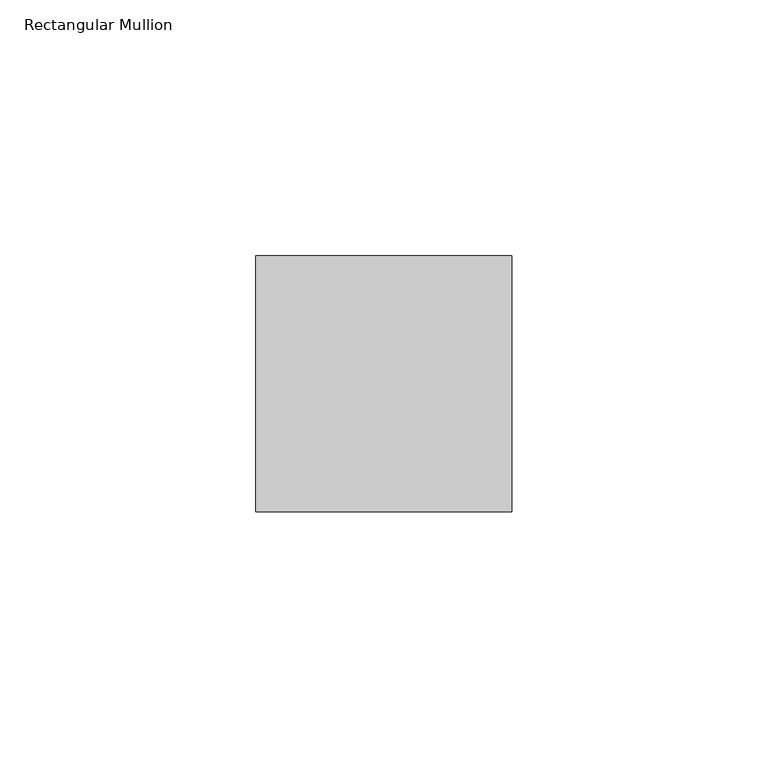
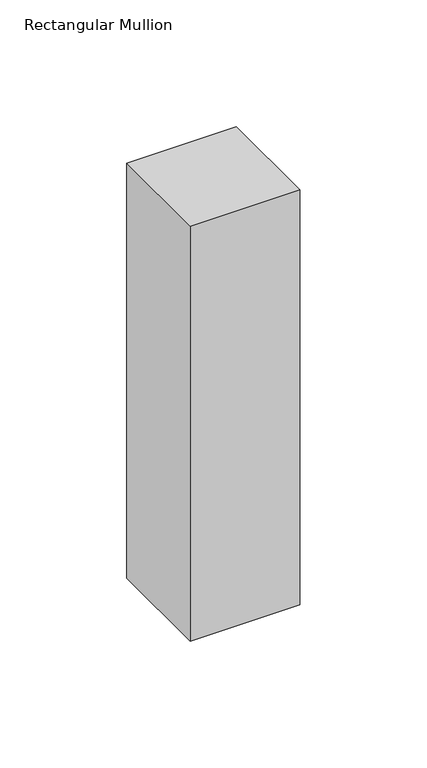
"""IFC4 building model written with IfcOpenShell, lengths in millimetres: member geometry, Rectangular Mullion : RSen_21_CWM_support profile 50x50 - left_gen_duco projects."""

import ifcopenshell
import ifcopenshell.guid

model = None  # the IFC model being written
_history = None  # IfcOwnerHistory: only IFC2X3 demands one
_inside = {}  # id of a spatial element -> (the spatial element, [elements in it])
_under = {}  # id of a project, library or spatial element -> (it, [spatial elements below it])
_declared = {}  # id of a project -> (the project, [libraries it declares])
_typed = {}  # id of a type object -> (the type object, [elements of that type])
_made_of = {}  # id of a material, layer set ... -> (it, [elements and type objects made of it])


def new_model(schema):
    """Start an empty IFC model of exactly this schema.

    Asked for "IFC4X3", IfcOpenShell would pick the latest addendum, in which some entities
    have other attributes; the version numbers below select the first issue.
    IFC2X3 requires an IfcOwnerHistory on every rooted entity: one is made here for all.
    """
    global model, _history
    if schema == "IFC4X3":
        model = ifcopenshell.file(schema_version=(4, 3, 0, 0))
    else:
        model = ifcopenshell.file(schema=schema)
    _inside.clear()
    _under.clear()
    _declared.clear()
    _typed.clear()
    _made_of.clear()
    _history = None
    if model.schema == "IFC2X3":
        org = make("IfcOrganization", Name="unknown")
        user = make(
            "IfcPersonAndOrganization",
            ThePerson=make("IfcPerson", FamilyName="unknown"),
            TheOrganization=org,
        )
        app = make(
            "IfcApplication",
            ApplicationDeveloper=org,
            Version="unknown",
            ApplicationFullName="unknown",
            ApplicationIdentifier="unknown",
        )
        _history = make(
            "IfcOwnerHistory",
            OwningUser=user,
            OwningApplication=app,
            ChangeAction="ADDED",
            CreationDate=0,
        )
    return model


def make(cls, **values):
    """One entity of the class cls with the attributes given. An attribute that is None is left unset."""
    return model.create_entity(
        cls, **{name: value for name, value in values.items() if value is not None}
    )


def rooted(cls, **values):
    """An entity with a GlobalId (a new one), such as an element, a storey or a relation."""
    return make(cls, GlobalId=ifcopenshell.guid.new(), OwnerHistory=_history, **values)


def si_unit(unit_type, name, prefix=None):
    """IfcSIUnit, for example si_unit("LENGTHUNIT", "METRE", prefix="MILLI")."""
    return make("IfcSIUnit", UnitType=unit_type, Prefix=prefix, Name=name)


def assignment(units):
    """IfcUnitAssignment: the units of a project."""
    return None if units is None else make("IfcUnitAssignment", Units=units)


def point(xyz):
    """IfcCartesianPoint."""
    return None if xyz is None else make("IfcCartesianPoint", Coordinates=xyz)


def direction(xyz):
    """IfcDirection."""
    return None if xyz is None else make("IfcDirection", DirectionRatios=xyz)


def frame(location, z_axis=None, x_axis=None):
    """IfcAxis2Placement3D, a coordinate frame: its origin and axes. An axis left out is left unset."""
    return make(
        "IfcAxis2Placement3D",
        Location=point(location),
        Axis=direction(z_axis),
        RefDirection=direction(x_axis),
    )


def origin():
    """The frame at (0, 0, 0) with its axes left unset."""
    return frame((0.0, 0.0, 0.0))


def place(relative_to, where):
    """IfcLocalPlacement: puts the frame where relative to a parent placement (None: the world)."""
    return make(
        "IfcLocalPlacement", PlacementRelTo=relative_to, RelativePlacement=where
    )


def context(
    kind, dimensions, precision=None, world=None, true_north=None, identifier=None
):
    """IfcGeometricRepresentationContext, for example the 3D "Model" context."""
    return make(
        "IfcGeometricRepresentationContext",
        ContextIdentifier=identifier,
        ContextType=kind,
        CoordinateSpaceDimension=dimensions,
        Precision=precision,
        WorldCoordinateSystem=world,
        TrueNorth=true_north,
    )


def project(units=None, contexts=None):
    """IfcProject with its units and contexts."""
    return rooted(
        "IfcProject",
        Name="project",
        RepresentationContexts=contexts,
        UnitsInContext=assignment(units),
    )


def spatial(cls, under=None, at=None, **own):
    """A site, building, storey or space (cls), placed at a placement, below another one or the project."""
    s = rooted(cls, ObjectPlacement=at, **own)
    if under is not None:
        _under.setdefault(under.id(), (under, []))[1].append(s)
    return s


def polyline(points):
    """IfcPolyline through the points."""
    return make("IfcPolyline", Points=[point(p) for p in points])


def outline(outer, holes=None, kind="AREA"):
    """IfcArbitraryClosedProfileDef: a profile drawn as a closed curve; with holes, ...WithVoids."""
    if holes is None:
        return make("IfcArbitraryClosedProfileDef", ProfileType=kind, OuterCurve=outer)
    return make(
        "IfcArbitraryProfileDefWithVoids",
        ProfileType=kind,
        OuterCurve=outer,
        InnerCurves=holes,
    )


def extrude(swept, where, along, depth):
    """IfcExtrudedAreaSolid: the profile swept, set in the frame where, extruded along a direction by depth."""
    return make(
        "IfcExtrudedAreaSolid",
        SweptArea=swept,
        Position=where,
        ExtrudedDirection=direction(along),
        Depth=depth,
    )


def shape(context_of_items, identifier, shape_type, items):
    """IfcShapeRepresentation: the items that make up one representation, for example the "Body"."""
    return make(
        "IfcShapeRepresentation",
        ContextOfItems=context_of_items,
        RepresentationIdentifier=identifier,
        RepresentationType=shape_type,
        Items=items,
    )


def source(mapping_origin, context_of_items, identifier, shape_type, items):
    """IfcRepresentationMap: a shape defined once, which mapped items show again and again."""
    return make(
        "IfcRepresentationMap",
        MappingOrigin=mapping_origin,
        MappedRepresentation=shape(context_of_items, identifier, shape_type, items),
    )


def transform(
    local_origin,
    x_axis=None,
    y_axis=None,
    z_axis=None,
    scale=None,
    scale2=None,
    scale3=None,
    uniform=True,
):
    """IfcCartesianTransformationOperator3D, or its non-uniform kind. x_axis, y_axis, z_axis: its Axis1, 2, 3."""
    if uniform:
        return make(
            "IfcCartesianTransformationOperator3D",
            Axis1=direction(x_axis),
            Axis2=direction(y_axis),
            LocalOrigin=point(local_origin),
            Scale=scale,
            Axis3=direction(z_axis),
        )
    return make(
        "IfcCartesianTransformationOperator3DnonUniform",
        Axis1=direction(x_axis),
        Axis2=direction(y_axis),
        LocalOrigin=point(local_origin),
        Scale=scale,
        Axis3=direction(z_axis),
        Scale2=scale2,
        Scale3=scale3,
    )


def mapped(mapping_source, mapping_target):
    """IfcMappedItem: shows the shape of a source again, moved by a transform."""
    return make(
        "IfcMappedItem", MappingSource=mapping_source, MappingTarget=mapping_target
    )


def made_of(thing, what):
    """Note that an element or type object is made of a material, layer set ...; save() writes the relation."""
    if what is not None:
        _made_of.setdefault(what.id(), (what, []))[1].append(thing)
    return thing


def element(
    cls,
    number,
    at=None,
    inside=None,
    cuts=None,
    type_object=None,
    material=None,
    context=None,
    identifier="Body",
    shape_type=None,
    held_by="IfcProductDefinitionShape",
    body=None,
    shapes=None,
    **own,
):
    """One element of the class cls, such as IfcWall. Its Tag is "e" and its number.

    at: its placement. inside: the storey or other place that contains it. cuts: it is an
    opening in that element (IfcRelVoidsElement). A single representation is given by context,
    identifier, shape_type and body (its items); several are given by shapes. held_by: the class
    of the entity that holds the representations. save() writes the other relations.
    """
    e = rooted(cls, Tag="e%d" % number, ObjectPlacement=at, **own)
    if body is not None:
        shapes = [shape(context, identifier, shape_type, body)]
    if shapes is not None:
        e.Representation = make(held_by, Representations=shapes)
    if inside is not None:
        _inside.setdefault(inside.id(), (inside, []))[1].append(e)
    if cuts is not None:
        rooted(
            "IfcRelVoidsElement", RelatingBuildingElement=cuts, RelatedOpeningElement=e
        )
    if type_object is not None:
        _typed.setdefault(type_object.id(), (type_object, []))[1].append(e)
    return made_of(e, material)


def aggregate(whole, parts):
    """IfcRelAggregates: a whole, such as a stair, and the parts it consists of."""
    return rooted("IfcRelAggregates", RelatingObject=whole, RelatedObjects=parts)


def save(model, path):
    """Write the relations noted so far, then the file.

    IfcRelAggregates (storeys below a building ...), IfcRelContainedInSpatialStructure (elements
    in a storey), IfcRelDefinesByType, IfcRelAssociatesMaterial and IfcRelDeclares: one each for
    every whole, place, type object, material and project.
    """
    for whole, parts in _under.values():
        aggregate(whole, parts)
    for where, things in _inside.values():
        rooted(
            "IfcRelContainedInSpatialStructure",
            RelatedElements=things,
            RelatingStructure=where,
        )
    for kind, things in _typed.values():
        rooted("IfcRelDefinesByType", RelatedObjects=things, RelatingType=kind)
    for what, things in _made_of.values():
        rooted("IfcRelAssociatesMaterial", RelatedObjects=things, RelatingMaterial=what)
    for by, libraries in _declared.values():
        rooted("IfcRelDeclares", RelatingContext=by, RelatedDefinitions=libraries)
    model.write(path)


def rectangular_mullion_a06afc58(model_context):
    return source(origin(), model_context, "Body", "SweptSolid", [
        extrude(outline(polyline([(0.0, 1.0), (0.0, -49.0), (-50.0, -49.0), (-50.0, 1.0), (0.0, 1.0)])), frame((0.0, 0.0, -200.0), z_axis=(0.0, 0.0, 1.0), x_axis=(1.0, 0.0, 0.0)), (0.0, 0.0, 1.0), 200.0),
    ])


if __name__ == "__main__":
    model = new_model("IFC4")
    model_context = context("Model", 3, world=origin())
    ifc_project = project(units=[si_unit("LENGTHUNIT", "METRE", prefix="MILLI")], contexts=[model_context])
    site = spatial("IfcSite", under=ifc_project)
    building = spatial("IfcBuilding", under=site)
    placement = place(None, origin())
    rectangular_mullion_shape = rectangular_mullion_a06afc58(model_context)
    element("IfcMember", 1, ObjectType="Rectangular Mullion : RSen_21_CWM_support profile 50x50 - left_gen_duco projects", at=placement, inside=building, context=model_context, shape_type="MappedRepresentation", body=[
        mapped(rectangular_mullion_shape, transform((0.0, 0.0, 0.0), x_axis=(1.0, 0.0, 0.0), y_axis=(0.0, 1.0, 0.0), z_axis=(0.0, 0.0, 1.0))),
    ])
    save(model, "model.ifc")
